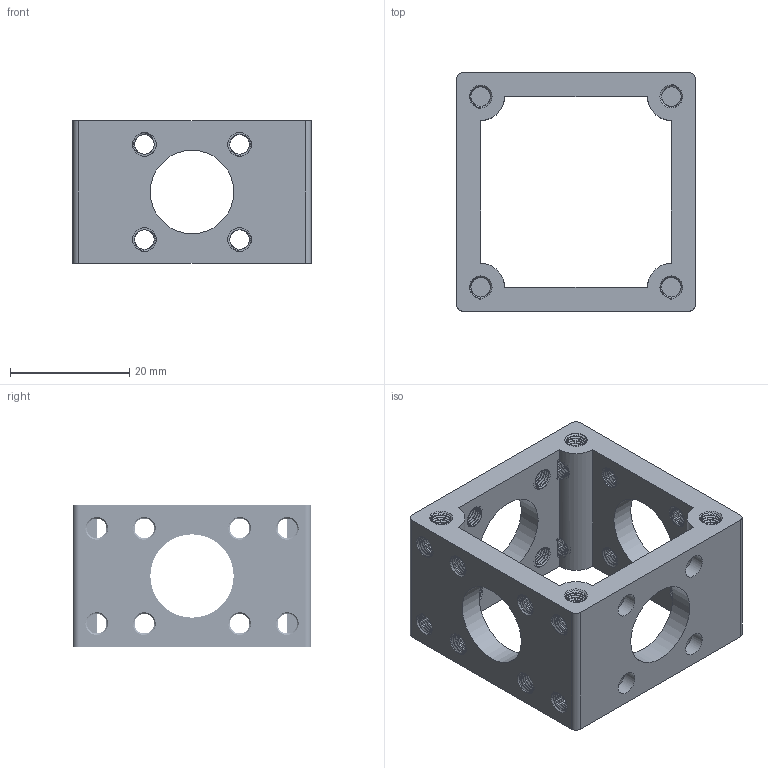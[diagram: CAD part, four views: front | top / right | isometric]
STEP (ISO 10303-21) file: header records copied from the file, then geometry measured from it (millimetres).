
FILE_DESCRIPTION( ('This file contains a STEP AP42 implementation' ,'as created by ZW3D STEP Interface translator.') ,'2;1' );
FILE_NAME( 'BL-GearBox4.stp' ,'241127.183213', (''), ('ZWCAD Software Co.'), 'Version 1.0', 'ZW3D to STEP translator', '' );
FILE_SCHEMA(('AUTOMOTIVE_DESIGN { 1 0 10303 214 1 1 1 1 }'));
Length unit declared in the file: millimetre
Products named in the file (2): 0; BL-GearBox4
Bounding box: 40 x 40 x 24 mm (x, y, z)
Volume: 10690.3 mm3; surface area: 10273.5 mm2
Topology: 1 solids, 1 shells, 2341 faces, 6875 edges, 4484 vertices
Faces by surface type: bspline 1356, cylinder 891, plane 66, cone 28
Full cylindrical faces by diameter (mm): 3.3 x202, 4 x4, 14 x4
Entity records: 351738 total; most frequent: CARTESIAN_POINT 307095, ORIENTED_EDGE 13586, EDGE_CURVE 6793, VERTEX_POINT 4432, B_SPLINE_CURVE_WITH_KNOTS 3485, DIRECTION 2995, EDGE_LOOP 2413, FACE_OUTER_BOUND 2341
